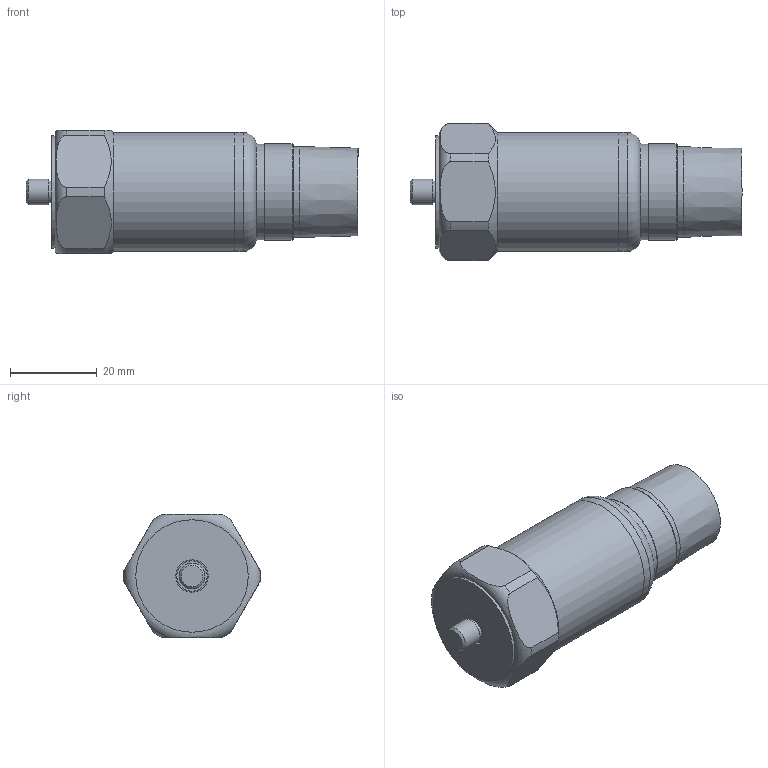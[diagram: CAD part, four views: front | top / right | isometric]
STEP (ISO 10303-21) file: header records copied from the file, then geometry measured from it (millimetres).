
FILE_DESCRIPTION(/* description */ (''),/* implementation_level */ '2;1');
FILE_NAME(/* name */ 'Z:\Engineering\Drawings\3D Library\Assemblies\Website\420 Velocity Top\HS-420XXX1206.stp',/* time_stamp */ '2023-05-03T13:52:47+01:00',/* author */ ('Ricardo.Peneda'),/* organization */ (''),/* preprocessor_version */ 'ST-DEVELOPER v18.1',/* originating_system */ 'Autodesk Inventor 2021',/* authorisation */ '');
FILE_SCHEMA (('AUTOMOTIVE_DESIGN { 1 0 10303 214 3 1 1 }'));
Length unit declared in the file: inch
Products named in the file (1): HS-420XXX1206_Shrinkwrap_1
Bounding box: 76.7 x 31.69 x 28.5 mm (x, y, z)
Volume: 18072.6 mm3; surface area: 12495 mm2
Topology: 4 solids, 4 shells, 66 faces, 173 edges, 128 vertices
Faces by surface type: plane 27, cylinder 27, cone 8, torus 4
Full cylindrical faces by diameter (mm): 3.241 x1, 5 x2, 6 x1, 6.3 x1, 6.35 x1, 7 x1, 7.5 x1, 14 x1, 18 x1, 19.95 x1, 20 x1, 21 x1, 22 x1, 22.2 x1, 23.3 x1, 25.3 x2, 26 x1, 27.5 x2
Entity records: 2384 total; most frequent: CARTESIAN_POINT 514, DIRECTION 411, ORIENTED_EDGE 346, AXIS2_PLACEMENT_3D 185, EDGE_CURVE 173, VERTEX_POINT 128, CIRCLE 118, EDGE_LOOP 83
